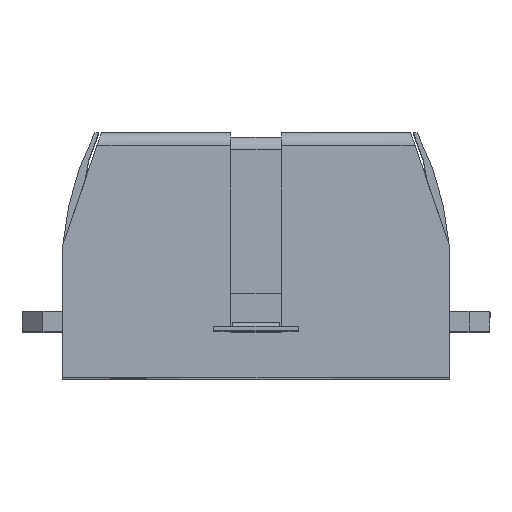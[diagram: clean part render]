
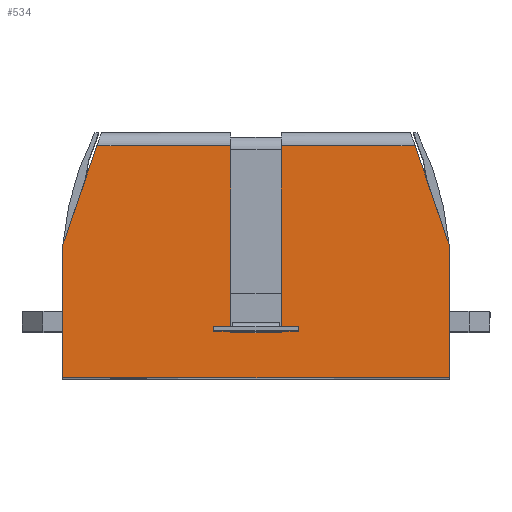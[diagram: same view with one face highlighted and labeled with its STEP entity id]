
A CAD part, top view. The second image highlights one B-rep face of the part: STEP entity #534.
In plain terms, the highlighted planar face has unit normal (0, 0.018, 1).
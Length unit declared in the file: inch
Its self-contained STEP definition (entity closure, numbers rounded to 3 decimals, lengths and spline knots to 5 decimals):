
#463 = VERTEX_POINT ( 'NONE', #6410 ) ;
#534 = ADVANCED_FACE ( 'NONE', ( #5060 ), #10962, .T. ) ;
#767 = VERTEX_POINT ( 'NONE', #902 ) ;
#902 = CARTESIAN_POINT ( 'NONE',  ( 0.075, 0.133, 1.51088 ) ) ;
#1380 = CARTESIAN_POINT ( 'NONE',  ( -0.57087, 0.3937, 1.50633 ) ) ;
#1386 = CARTESIAN_POINT ( 'NONE',  ( 0.075, 0.6857, 1.50123 ) ) ;
#1400 = EDGE_CURVE ( 'NONE', #767, #6568, #10812, .T. ) ;
#1497 = EDGE_CURVE ( 'NONE', #5182, #463, #2187, .T. ) ;
#1560 = CARTESIAN_POINT ( 'NONE',  ( -0.57087, -0.275, 1.518 ) ) ;
#1692 = CARTESIAN_POINT ( 'NONE',  ( -0.075, -0.275, 1.518 ) ) ;
#1738 = VECTOR ( 'NONE', #8282, 39.37008 ) ;
#1876 = CARTESIAN_POINT ( 'NONE',  ( -0.075, 0.6857, 1.50123 ) ) ;
#2074 = VECTOR ( 'NONE', #3084, 39.37008 ) ;
#2187 = LINE ( 'NONE', #15402, #16350 ) ;
#2189 = EDGE_CURVE ( 'NONE', #8698, #5182, #7579, .T. ) ;
#2628 = VERTEX_POINT ( 'NONE', #1380 ) ;
#3084 = DIRECTION ( 'NONE',  ( 0., -1., 0.017 ) ) ;
#3174 = AXIS2_PLACEMENT_3D ( 'NONE', #1560, #15949, #3265 ) ;
#3220 = DIRECTION ( 'NONE',  ( 0., 1., -0.017 ) ) ;
#3265 = DIRECTION ( 'NONE',  ( 1., 0., 0. ) ) ;
#3380 = DIRECTION ( 'NONE',  ( 1., 0., 0. ) ) ;
#3401 = VECTOR ( 'NONE', #8960, 39.37008 ) ;
#3858 = DIRECTION ( 'NONE',  ( -1., 0., 0. ) ) ;
#4573 = EDGE_CURVE ( 'NONE', #8698, #6568, #10569, .T. ) ;
#4785 = VERTEX_POINT ( 'NONE', #13759 ) ;
#5060 = FACE_OUTER_BOUND ( 'NONE', #9785, .T. ) ;
#5182 = VERTEX_POINT ( 'NONE', #12877 ) ;
#5234 = CARTESIAN_POINT ( 'NONE',  ( 0.47032, 0.6857, 1.50123 ) ) ;
#5441 = DIRECTION ( 'NONE',  ( -1., 0., 0. ) ) ;
#5608 = VECTOR ( 'NONE', #3858, 39.37008 ) ;
#6035 = ORIENTED_EDGE ( 'NONE', *, *, #1400, .F. ) ;
#6410 = CARTESIAN_POINT ( 'NONE',  ( 0.57087, 0., 1.5132 ) ) ;
#6532 = EDGE_CURVE ( 'NONE', #15346, #15529, #13521, .T. ) ;
#6568 = VERTEX_POINT ( 'NONE', #1386 ) ;
#6743 = VECTOR ( 'NONE', #3220, 39.37008 ) ;
#6921 = VECTOR ( 'NONE', #13418, 39.37008 ) ;
#7087 = EDGE_CURVE ( 'NONE', #463, #9560, #10134, .T. ) ;
#7579 = LINE ( 'NONE', #13706, #1738 ) ;
#7591 = CARTESIAN_POINT ( 'NONE',  ( -0.57087, -0.275, 1.518 ) ) ;
#7699 = VECTOR ( 'NONE', #10613, 39.37008 ) ;
#7808 = CARTESIAN_POINT ( 'NONE',  ( 0.075, -0.275, 1.518 ) ) ;
#8282 = DIRECTION ( 'NONE',  ( 0.326, -0.945, 0.017 ) ) ;
#8609 = CARTESIAN_POINT ( 'NONE',  ( -0.57087, 0.133, 1.51088 ) ) ;
#8698 = VERTEX_POINT ( 'NONE', #5234 ) ;
#8960 = DIRECTION ( 'NONE',  ( 0., 1., -0.017 ) ) ;
#8965 = ORIENTED_EDGE ( 'NONE', *, *, #9386, .F. ) ;
#9386 = EDGE_CURVE ( 'NONE', #4785, #767, #17389, .T. ) ;
#9560 = VERTEX_POINT ( 'NONE', #12817 ) ;
#9785 = EDGE_LOOP ( 'NONE', ( #6035, #8965, #16576, #14886, #12270, #14039, #15987, #10586, #17009, #12952 ) ) ;
#10117 = VECTOR ( 'NONE', #3380, 39.37008 ) ;
#10134 = LINE ( 'NONE', #13439, #5608 ) ;
#10274 = CARTESIAN_POINT ( 'NONE',  ( -0.47032, 0.6857, 1.50123 ) ) ;
#10569 = LINE ( 'NONE', #17382, #6921 ) ;
#10586 = ORIENTED_EDGE ( 'NONE', *, *, #1497, .F. ) ;
#10613 = DIRECTION ( 'NONE',  ( 0.326, 0.945, -0.017 ) ) ;
#10723 = LINE ( 'NONE', #7591, #3401 ) ;
#10812 = LINE ( 'NONE', #7808, #6743 ) ;
#10962 = PLANE ( 'NONE',  #3174 ) ;
#11325 = LINE ( 'NONE', #13280, #7699 ) ;
#12270 = ORIENTED_EDGE ( 'NONE', *, *, #16118, .F. ) ;
#12719 = DIRECTION ( 'NONE',  ( 0., -1., 0.017 ) ) ;
#12817 = CARTESIAN_POINT ( 'NONE',  ( -0.57087, 0., 1.5132 ) ) ;
#12877 = CARTESIAN_POINT ( 'NONE',  ( 0.57087, 0.3937, 1.50633 ) ) ;
#12952 = ORIENTED_EDGE ( 'NONE', *, *, #4573, .T. ) ;
#13039 = LINE ( 'NONE', #1692, #2074 ) ;
#13280 = CARTESIAN_POINT ( 'NONE',  ( -0.77672, -0.20414, 1.51676 ) ) ;
#13418 = DIRECTION ( 'NONE',  ( -1., 0., 0. ) ) ;
#13439 = CARTESIAN_POINT ( 'NONE',  ( -0.57087, 0., 1.5132 ) ) ;
#13440 = EDGE_CURVE ( 'NONE', #9560, #2628, #10723, .T. ) ;
#13521 = LINE ( 'NONE', #14995, #16988 ) ;
#13706 = CARTESIAN_POINT ( 'NONE',  ( 0.65573, 0.14722, 1.51063 ) ) ;
#13759 = CARTESIAN_POINT ( 'NONE',  ( -0.075, 0.133, 1.51088 ) ) ;
#13899 = EDGE_CURVE ( 'NONE', #15346, #4785, #13039, .T. ) ;
#14039 = ORIENTED_EDGE ( 'NONE', *, *, #13440, .F. ) ;
#14886 = ORIENTED_EDGE ( 'NONE', *, *, #6532, .T. ) ;
#14995 = CARTESIAN_POINT ( 'NONE',  ( -0.45679, 0.6857, 1.50123 ) ) ;
#15346 = VERTEX_POINT ( 'NONE', #1876 ) ;
#15402 = CARTESIAN_POINT ( 'NONE',  ( 0.57087, -0.275, 1.518 ) ) ;
#15529 = VERTEX_POINT ( 'NONE', #10274 ) ;
#15949 = DIRECTION ( 'NONE',  ( 0., 0.017, 1. ) ) ;
#15987 = ORIENTED_EDGE ( 'NONE', *, *, #7087, .F. ) ;
#16118 = EDGE_CURVE ( 'NONE', #2628, #15529, #11325, .T. ) ;
#16350 = VECTOR ( 'NONE', #12719, 39.37008 ) ;
#16576 = ORIENTED_EDGE ( 'NONE', *, *, #13899, .F. ) ;
#16988 = VECTOR ( 'NONE', #5441, 39.37008 ) ;
#17009 = ORIENTED_EDGE ( 'NONE', *, *, #2189, .F. ) ;
#17382 = CARTESIAN_POINT ( 'NONE',  ( 0.075, 0.6857, 1.50123 ) ) ;
#17389 = LINE ( 'NONE', #8609, #10117 ) ;
